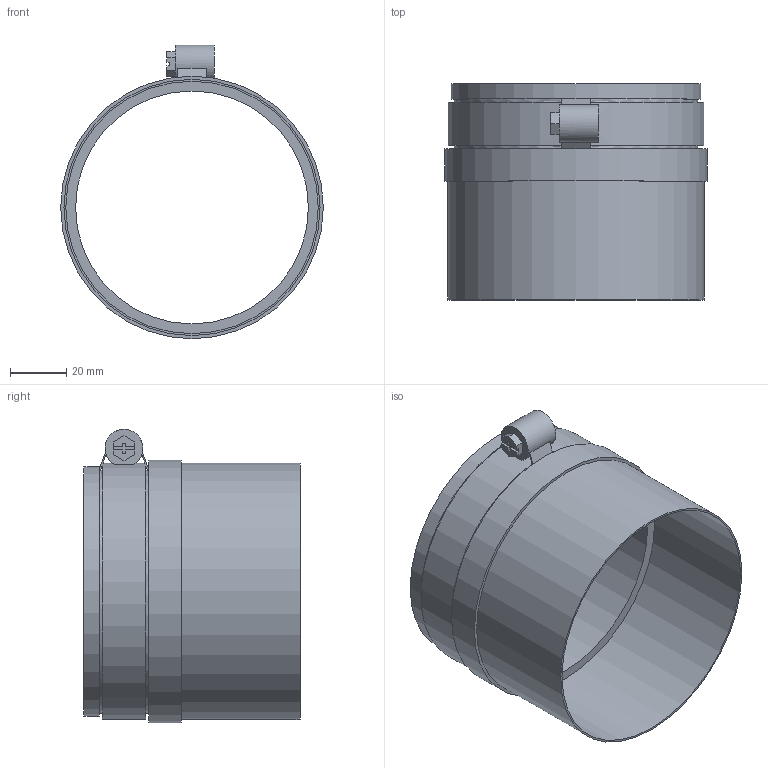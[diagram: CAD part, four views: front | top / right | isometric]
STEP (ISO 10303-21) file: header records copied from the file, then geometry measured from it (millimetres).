
FILE_DESCRIPTION( ( 'STEP AP214' ), '1' );
FILE_NAME( 'C:/Users/ilukic/Documents/ex/gebaudeentwasserung/silent_pp/Geberit SilentPP adapter sleeve to cast iron/390495.stp', '2020-03-26T18:44:41', ( '' ), ( '' ), ' ', 'PARTsolutions', ' ' );
FILE_SCHEMA( ( 'AUTOMOTIVE_DESIGN { 1 0 10303 214 1 1 1 1 }' ) );
Length unit declared in the file: millimetre
Products named in the file (1): _390495
Bounding box: 93.58 x 77 x 104.6 mm (x, y, z)
Volume: 48989.3 mm3; surface area: 48952 mm2
Topology: 1 solids, 1 shells, 53 faces, 144 edges, 95 vertices
Faces by surface type: plane 43, cylinder 10
Full cylindrical faces by diameter (mm): 83 x1, 86.735 x2, 89.017 x1, 90 x1, 91.3 x2, 93.582 x1
Entity records: 2040 total; most frequent: CARTESIAN_POINT 303, DIRECTION 262, ORIENTED_EDGE 260, EDGE_CURVE 130, LINE 100, VECTOR 100, VERTEX_POINT 90, AXIS2_PLACEMENT_3D 81
